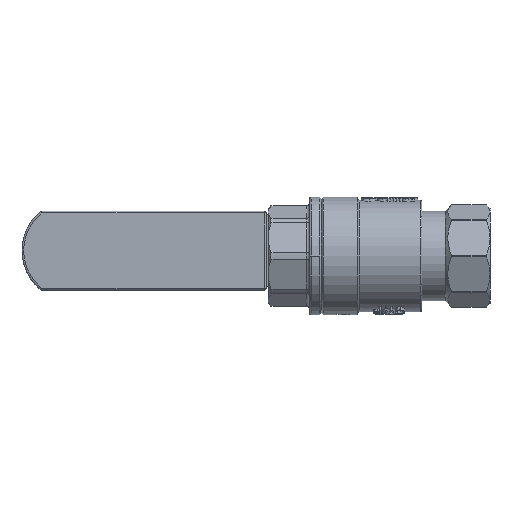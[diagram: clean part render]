
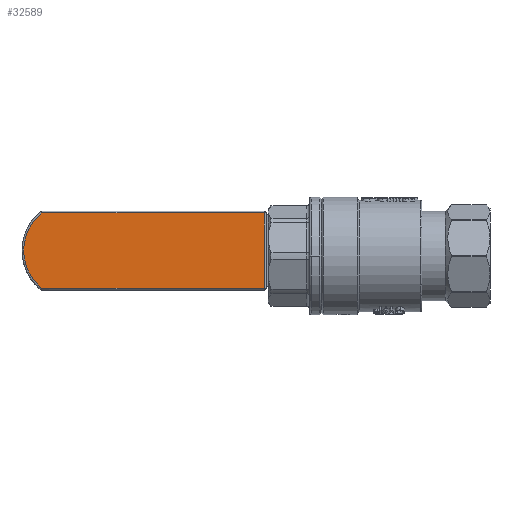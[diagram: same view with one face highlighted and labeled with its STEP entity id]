
A CAD part, front view. The second image highlights one B-rep face of the part: STEP entity #32589.
In plain terms, the highlighted planar face has unit normal (0, -1, 0).
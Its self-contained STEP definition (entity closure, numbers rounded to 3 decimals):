
#546 = CARTESIAN_POINT ( 'NONE',  ( -67.073, -4., 10.5 ) ) ;
#2037 = CARTESIAN_POINT ( 'NONE',  ( -66.573, -4., -10.5 ) ) ;
#6464 = EDGE_CURVE ( 'NONE', #108635, #43980, #95892, .T. ) ;
#12194 = EDGE_CURVE ( 'NONE', #82169, #114465, #55838, .T. ) ;
#21471 = CARTESIAN_POINT ( 'NONE',  ( -4.515, -4., -10.5 ) ) ;
#24035 = VECTOR ( 'NONE', #27904, 1000. ) ;
#24371 = ORIENTED_EDGE ( 'NONE', *, *, #6464, .T. ) ;
#27904 = DIRECTION ( 'NONE',  ( 0., 0., -1. ) ) ;
#28645 = ORIENTED_EDGE ( 'NONE', *, *, #77796, .T. ) ;
#32589 = ADVANCED_FACE ( 'NONE', ( #58399 ), #62328, .F. ) ;
#39244 = VECTOR ( 'NONE', #40498, 1000. ) ;
#40498 = DIRECTION ( 'NONE',  ( -1., 0., 0. ) ) ;
#43315 = CARTESIAN_POINT ( 'NONE',  ( -13., -4., 0. ) ) ;
#43752 = CARTESIAN_POINT ( 'NONE',  ( -4.515, -4., 10.5 ) ) ;
#43980 = VERTEX_POINT ( 'NONE', #49368 ) ;
#49368 = CARTESIAN_POINT ( 'NONE',  ( -66.573, -4., 10.5 ) ) ;
#50422 = CIRCLE ( 'NONE', #61729, 13.5 ) ;
#54684 = DIRECTION ( 'NONE',  ( 1., 0., 0. ) ) ;
#55838 = LINE ( 'NONE', #116446, #102927 ) ;
#58399 = FACE_OUTER_BOUND ( 'NONE', #81936, .T. ) ;
#61729 = AXIS2_PLACEMENT_3D ( 'NONE', #43315, #83735, #84596 ) ;
#62328 = PLANE ( 'NONE',  #73153 ) ;
#62767 = CARTESIAN_POINT ( 'NONE',  ( -67.073, -4., 10. ) ) ;
#73153 = AXIS2_PLACEMENT_3D ( 'NONE', #62767, #94811, #104860 ) ;
#77431 = LINE ( 'NONE', #107328, #24035 ) ;
#77796 = EDGE_CURVE ( 'NONE', #114465, #108635, #50422, .T. ) ;
#81936 = EDGE_LOOP ( 'NONE', ( #24371, #84238, #99886, #28645 ) ) ;
#82169 = VERTEX_POINT ( 'NONE', #2037 ) ;
#83735 = DIRECTION ( 'NONE',  ( 0., -1., 0. ) ) ;
#84238 = ORIENTED_EDGE ( 'NONE', *, *, #90474, .T. ) ;
#84596 = DIRECTION ( 'NONE',  ( -1., 0., 0. ) ) ;
#90474 = EDGE_CURVE ( 'NONE', #43980, #82169, #77431, .T. ) ;
#94811 = DIRECTION ( 'NONE',  ( 0., 1., 0. ) ) ;
#95892 = LINE ( 'NONE', #546, #39244 ) ;
#99886 = ORIENTED_EDGE ( 'NONE', *, *, #12194, .T. ) ;
#102927 = VECTOR ( 'NONE', #54684, 1000. ) ;
#104860 = DIRECTION ( 'NONE',  ( -1., 0., 0. ) ) ;
#107328 = CARTESIAN_POINT ( 'NONE',  ( -66.573, -4., 10. ) ) ;
#108635 = VERTEX_POINT ( 'NONE', #43752 ) ;
#114465 = VERTEX_POINT ( 'NONE', #21471 ) ;
#116446 = CARTESIAN_POINT ( 'NONE',  ( -67.073, -4., -10.5 ) ) ;
